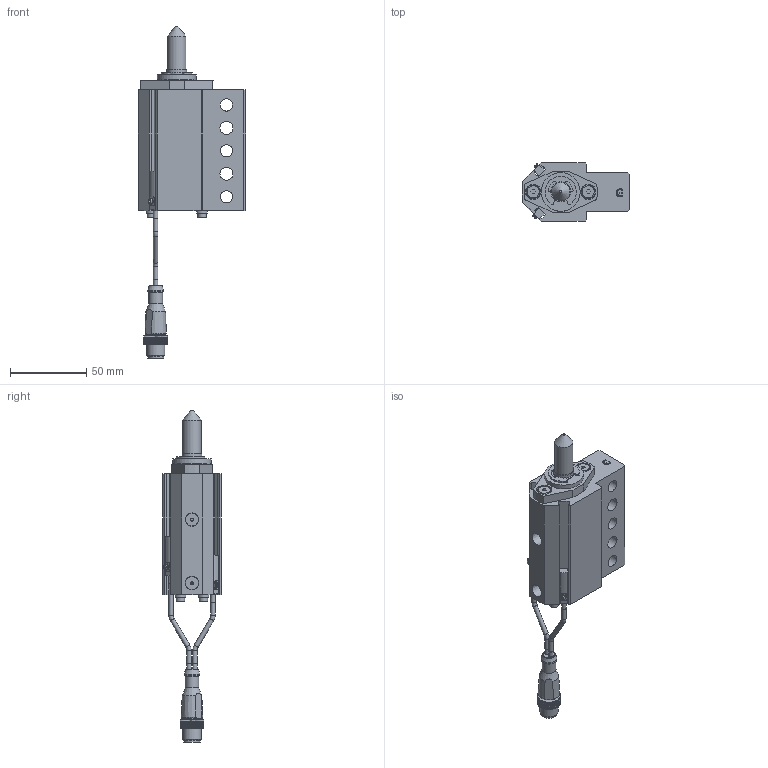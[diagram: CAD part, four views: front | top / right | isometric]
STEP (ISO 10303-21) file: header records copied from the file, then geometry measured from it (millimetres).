
FILE_DESCRIPTION(/* description */ ('NAAMS FLOATING MICRO PIN'),/* implementation_level */ '2;1');
FILE_NAME(/* name */ 'C:\Vault Workspace\CAD\Welker\Shot Pin\NMP\NMP120022AGNL3.stp',/* time_stamp */ '2021-01-27T10:37:04-05:00',/* author */ ('WELKER'),/* organization */ (''),/* preprocessor_version */ 'ST-DEVELOPER v18.1',/* originating_system */ 'Autodesk Inventor 2020',/* authorisation */ '');
FILE_SCHEMA (('AUTOMOTIVE_DESIGN { 1 0 10303 214 3 1 1 }'));
Length unit declared in the file: millimetre
Products named in the file (16): NMPL01; NMP L3 SWITCH; L3 Connector; L3 Sensor 1; L3 Sensor 2; L3 Sensor cable; L3 Sensor cable 2; M3X0.5-8 SHCS; NL3; NMPE06; NMPE03; NMPE05-DIA-LENGTH; 985432A218; NMPE01G-PORT; RMPE02; M5X5 SHOULDER
Assembly tree (22 placements, depth 3):
  NMPL01
    NMP L3 SWITCH
      L3 Connector
      L3 Sensor 1
      L3 Sensor 2
      L3 Sensor cable
      L3 Sensor cable 2
    M3X0.5-8 SHCS  x4
    NL3  x4
    NMPE06
    NMPE03
    NMPE05-DIA-LENGTH
    985432A218
    NMPE01G-PORT
    RMPE02
    M5X5 SHOULDER  x2
Bounding box: 70 x 38.1 x 217.12 mm (x, y, z)
Volume: 133588.2 mm3; surface area: 49914.3 mm2
Topology: 21 solids, 21 shells, 760 faces, 2090 edges, 1402 vertices
Faces by surface type: plane 546, cylinder 149, cone 35, bspline 16, torus 11, sphere 3
Full cylindrical faces by diameter (mm): 2 x2, 2.459 x4, 2.9 x10, 3 x5, 3.242 x2, 3.4 x4, 4 x2, 5 x6, 5.5 x4, 6.647 x2, 7 x4, 8 x5, 8.3 x2, 8.5 x2, 9 x3, 10 x3, 10.4 x1, 10.5 x1, 12 x2, 13 x3, 16 x2, 19.05 x3, 21 x1, 22.5 x1, 23.673 x1, 24 x1, 25.4 x1, 25.5 x1, 26.5 x1, 28.677 x1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
Entity records: 23785 total; most frequent: CARTESIAN_POINT 4688, ORIENTED_EDGE 3870, DIRECTION 3771, EDGE_CURVE 1935, LINE 1391, VECTOR 1391, VERTEX_POINT 1307, AXIS2_PLACEMENT_3D 1190
